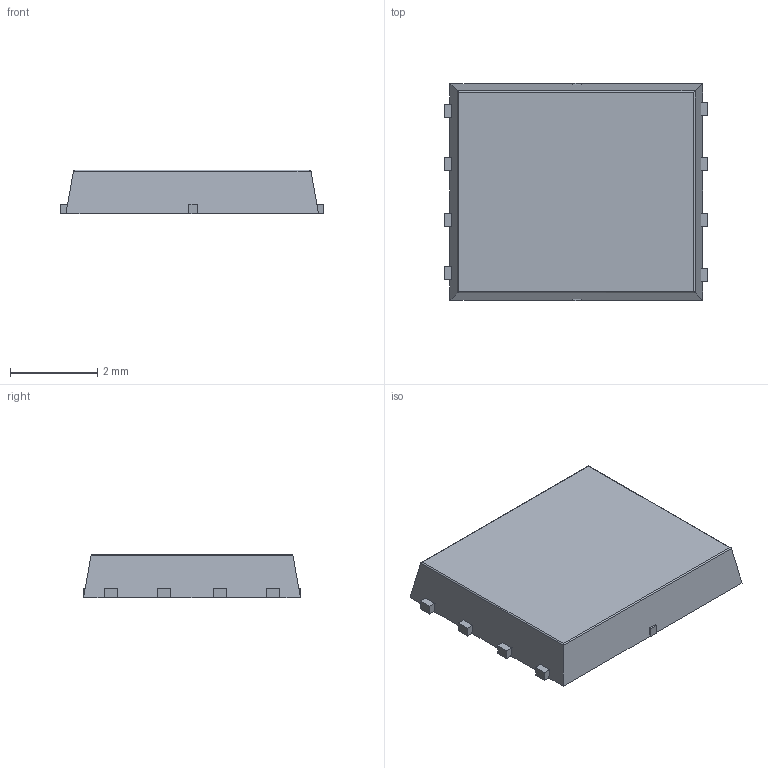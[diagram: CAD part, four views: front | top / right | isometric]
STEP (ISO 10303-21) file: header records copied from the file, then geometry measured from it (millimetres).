
FILE_DESCRIPTION(/* description */ (''),/* implementation_level */ '2;1');
FILE_NAME(/* name */ 'P260_PowerQFN5x6dual.stp',/* time_stamp */ '2022-04-07T12:26:14+02:00',/* author */ (''),/* organization */ (''),/* preprocessor_version */ 'ST-DEVELOPER v14',/* originating_system */ 'SIEMENS PLM Software NX 8.0',/* authorisation */ '');
FILE_SCHEMA (('AUTOMOTIVE_DESIGN { 1 0 10303 214 3 1 1 1 }'));
Length unit declared in the file: millimetre
Products named in the file (1): P260_PowerQFN5x6dual-body
Bounding box: 6.05 x 5 x 1.01 mm (x, y, z)
Volume: 27.2 mm3; surface area: 116.2 mm2
Topology: 7 solids, 7 shells, 190 faces, 524 edges, 348 vertices
Faces by surface type: plane 186, cylinder 4
Entity records: 5975 total; most frequent: CARTESIAN_POINT 1063, ORIENTED_EDGE 1048, DIRECTION 910, EDGE_CURVE 524, LINE 520, VECTOR 520, VERTEX_POINT 348, AXIS2_PLACEMENT_3D 195
